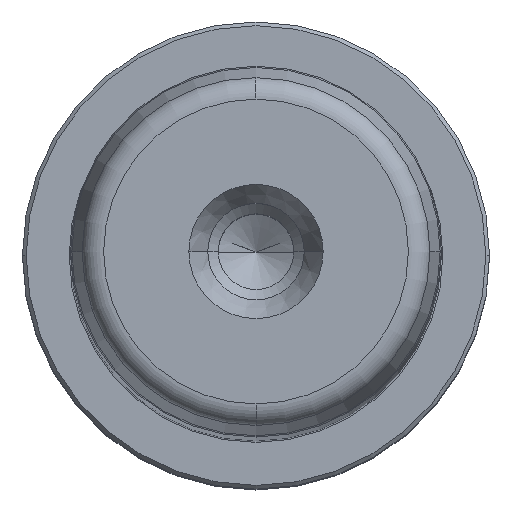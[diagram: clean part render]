
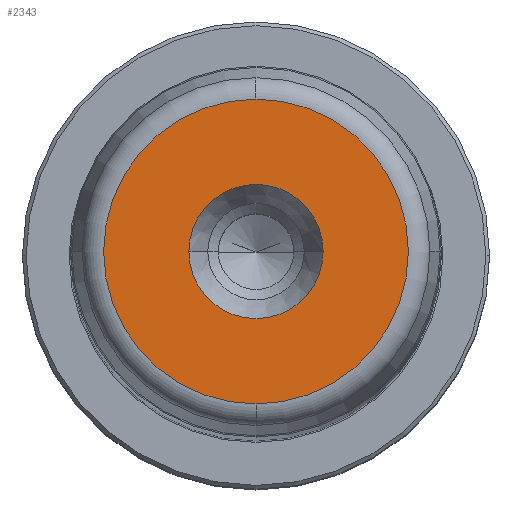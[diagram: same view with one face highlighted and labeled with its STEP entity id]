
A CAD part, top view. The second image highlights one B-rep face of the part: STEP entity #2343.
In plain terms, the highlighted planar face has unit normal (0, 0, 1).
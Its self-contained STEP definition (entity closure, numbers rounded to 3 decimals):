
#431=CARTESIAN_POINT('',(9.05,0.,315.0));
#432=VERTEX_POINT('',#431);
#439=CARTESIAN_POINT('',(-9.05,0.,315.0));
#440=VERTEX_POINT('',#439);
#441=CARTESIAN_POINT('',(0.0,0.,315.0));
#442=DIRECTION('',(0.0,0.0,1.0));
#443=DIRECTION('',(1.0,0.0,0.0));
#444=AXIS2_PLACEMENT_3D('',#441,#442,#443);
#445=CIRCLE('',#444,9.05);
#446=EDGE_CURVE('',#432,#440,#445,.T.);
#463=CARTESIAN_POINT('',(0.0,-20.554,315.));
#464=VERTEX_POINT('',#463);
#474=CARTESIAN_POINT('',(0.,20.554,315.));
#475=VERTEX_POINT('',#474);
#476=CARTESIAN_POINT('',(0.0,0.,315.));
#477=DIRECTION('',(0.0,0.0,1.0));
#478=DIRECTION('',(1.0,0.0,0.0));
#479=AXIS2_PLACEMENT_3D('',#476,#477,#478);
#480=CIRCLE('',#479,20.554);
#481=EDGE_CURVE('',#475,#464,#480,.T.);
#2304=CARTESIAN_POINT('',(20.554,0.,315.));
#2305=VERTEX_POINT('',#2304);
#2306=CARTESIAN_POINT('',(0.0,0.,315.));
#2307=DIRECTION('',(0.0,0.0,1.0));
#2308=DIRECTION('',(1.0,0.0,0.0));
#2309=AXIS2_PLACEMENT_3D('',#2306,#2307,#2308);
#2310=CIRCLE('',#2309,20.554);
#2311=EDGE_CURVE('',#2305,#475,#2310,.T.);
#2313=CARTESIAN_POINT('',(0.0,0.,315.));
#2314=DIRECTION('',(0.0,0.0,1.0));
#2315=DIRECTION('',(1.0,0.0,0.0));
#2316=AXIS2_PLACEMENT_3D('',#2313,#2314,#2315);
#2317=CIRCLE('',#2316,20.554);
#2318=EDGE_CURVE('',#464,#2305,#2317,.T.);
#2323=CARTESIAN_POINT('',(14.802,0.,315.0));
#2324=DIRECTION('',(0.0,0.0,1.0));
#2325=DIRECTION('',(0.0,-1.0,0.0));
#2326=AXIS2_PLACEMENT_3D('',#2323,#2324,#2325);
#2327=PLANE('',#2326);
#2328=ORIENTED_EDGE('',*,*,#2311,.T.);
#2329=ORIENTED_EDGE('',*,*,#481,.T.);
#2330=ORIENTED_EDGE('',*,*,#2318,.T.);
#2331=EDGE_LOOP('',(#2328,#2329,#2330));
#2332=FACE_OUTER_BOUND('',#2331,.T.);
#2333=ORIENTED_EDGE('',*,*,#446,.F.);
#2334=CARTESIAN_POINT('',(0.0,0.,315.0));
#2335=DIRECTION('',(0.0,0.0,1.0));
#2336=DIRECTION('',(1.0,0.0,0.0));
#2337=AXIS2_PLACEMENT_3D('',#2334,#2335,#2336);
#2338=CIRCLE('',#2337,9.05);
#2339=EDGE_CURVE('',#440,#432,#2338,.T.);
#2340=ORIENTED_EDGE('',*,*,#2339,.F.);
#2341=EDGE_LOOP('',(#2333,#2340));
#2342=FACE_BOUND('',#2341,.T.);
#2343=ADVANCED_FACE('',(#2332,#2342),#2327,.T.);
